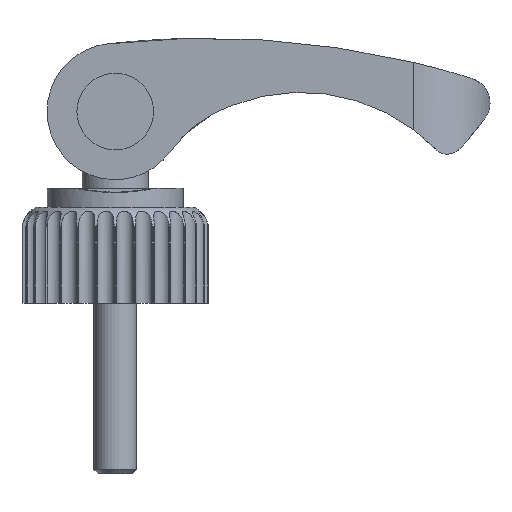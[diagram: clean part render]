
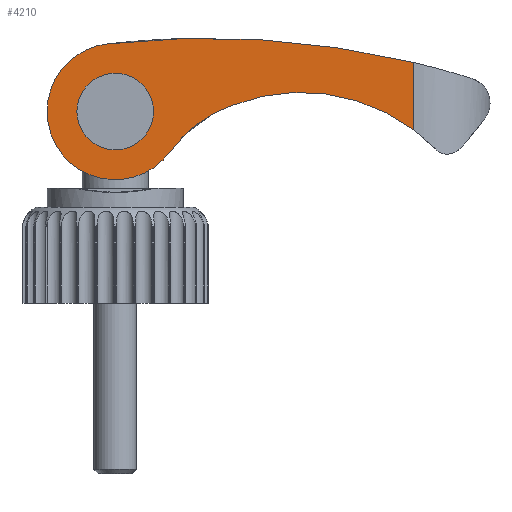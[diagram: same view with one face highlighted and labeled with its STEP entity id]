
A CAD part, front view. The second image highlights one B-rep face of the part: STEP entity #4210.
In plain terms, the highlighted planar face has unit normal (0, -1, 0) as drawn and (0, 0, 1) by its records, which use the part's own axes.
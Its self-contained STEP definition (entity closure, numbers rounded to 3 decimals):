
#65 = CARTESIAN_POINT ( 'NONE',  ( -4.5, 0., 9. ) ) ;
#69 = VERTEX_POINT ( 'NONE', #6981 ) ;
#111 = DIRECTION ( 'NONE',  ( 0., 0., -1. ) ) ;
#219 = CIRCLE ( 'NONE', #3271, 15. ) ;
#257 = ORIENTED_EDGE ( 'NONE', *, *, #2188, .T. ) ;
#324 = EDGE_CURVE ( 'NONE', #7579, #69, #734, .T. ) ;
#590 = VERTEX_POINT ( 'NONE', #3857 ) ;
#632 = CIRCLE ( 'NONE', #4261, 4.5 ) ;
#692 = ORIENTED_EDGE ( 'NONE', *, *, #324, .T. ) ;
#734 = CIRCLE ( 'NONE', #4357, 104. ) ;
#779 = AXIS2_PLACEMENT_3D ( 'NONE', #7450, #5399, #4811 ) ;
#1012 = DIRECTION ( 'NONE',  ( 0., 0., -1. ) ) ;
#1083 = DIRECTION ( 'NONE',  ( 0., 0., 1. ) ) ;
#1261 = AXIS2_PLACEMENT_3D ( 'NONE', #5246, #5889, #3117 ) ;
#1266 = PLANE ( 'NONE',  #1666 ) ;
#1291 = EDGE_CURVE ( 'NONE', #590, #1777, #7840, .T. ) ;
#1572 = EDGE_CURVE ( 'NONE', #69, #4822, #3207, .T. ) ;
#1666 = AXIS2_PLACEMENT_3D ( 'NONE', #2033, #7438, #4075 ) ;
#1777 = VERTEX_POINT ( 'NONE', #8766 ) ;
#1814 = LINE ( 'NONE', #7300, #7331 ) ;
#2033 = CARTESIAN_POINT ( 'NONE',  ( 5.413, -47.694, 9. ) ) ;
#2188 = EDGE_CURVE ( 'NONE', #4822, #7268, #8315, .T. ) ;
#2492 = DIRECTION ( 'NONE',  ( 1., 0., 0. ) ) ;
#2678 = ORIENTED_EDGE ( 'NONE', *, *, #8003, .T. ) ;
#2747 = CARTESIAN_POINT ( 'NONE',  ( 0., 0., 9. ) ) ;
#2891 = ORIENTED_EDGE ( 'NONE', *, *, #7706, .F. ) ;
#3117 = DIRECTION ( 'NONE',  ( 1., 0., 0. ) ) ;
#3207 = CIRCLE ( 'NONE', #8285, 8. ) ;
#3271 = AXIS2_PLACEMENT_3D ( 'NONE', #6756, #4345, #4389 ) ;
#3323 = DIRECTION ( 'NONE',  ( 1., 0., 0. ) ) ;
#3400 = FACE_BOUND ( 'NONE', #7528, .T. ) ;
#3455 = ORIENTED_EDGE ( 'NONE', *, *, #1291, .T. ) ;
#3458 = CARTESIAN_POINT ( 'NONE',  ( 6.488, -4.68, 9. ) ) ;
#3688 = EDGE_CURVE ( 'NONE', #6367, #6867, #632, .T. ) ;
#3784 = DIRECTION ( 'NONE',  ( 1., 0., 0. ) ) ;
#3857 = CARTESIAN_POINT ( 'NONE',  ( 13.462, 0.618, 9. ) ) ;
#3910 = ORIENTED_EDGE ( 'NONE', *, *, #1572, .T. ) ;
#3944 = CARTESIAN_POINT ( 'NONE',  ( 35., 5.764, 9. ) ) ;
#4075 = DIRECTION ( 'NONE',  ( 1., 0., 0. ) ) ;
#4137 = DIRECTION ( 'NONE',  ( 1., 0., 0. ) ) ;
#4210 = ADVANCED_FACE ( 'NONE', ( #3400, #8793 ), #1266, .T. ) ;
#4261 = AXIS2_PLACEMENT_3D ( 'NONE', #8674, #1012, #3784 ) ;
#4317 = DIRECTION ( 'NONE',  ( 0., 0., 1. ) ) ;
#4345 = DIRECTION ( 'NONE',  ( 0., 0., 1. ) ) ;
#4357 = AXIS2_PLACEMENT_3D ( 'NONE', #6992, #4317, #4137 ) ;
#4389 = DIRECTION ( 'NONE',  ( 1., 0., 0. ) ) ;
#4668 = CARTESIAN_POINT ( 'NONE',  ( 35., -2.139, 9. ) ) ;
#4811 = DIRECTION ( 'NONE',  ( 1., 0., 0. ) ) ;
#4822 = VERTEX_POINT ( 'NONE', #8239 ) ;
#5237 = ORIENTED_EDGE ( 'NONE', *, *, #8949, .F. ) ;
#5246 = CARTESIAN_POINT ( 'NONE',  ( 21.805, -19.743, 9. ) ) ;
#5399 = DIRECTION ( 'NONE',  ( 0., 0., 1. ) ) ;
#5453 = AXIS2_PLACEMENT_3D ( 'NONE', #2747, #111, #7057 ) ;
#5532 = AXIS2_PLACEMENT_3D ( 'NONE', #7541, #8806, #3323 ) ;
#5844 = ORIENTED_EDGE ( 'NONE', *, *, #3688, .T. ) ;
#5861 = VERTEX_POINT ( 'NONE', #4668 ) ;
#5889 = DIRECTION ( 'NONE',  ( 0., 0., 1. ) ) ;
#5990 = CARTESIAN_POINT ( 'NONE',  ( 4.5, 0., 9. ) ) ;
#6367 = VERTEX_POINT ( 'NONE', #5990 ) ;
#6504 = ORIENTED_EDGE ( 'NONE', *, *, #7511, .F. ) ;
#6756 = CARTESIAN_POINT ( 'NONE',  ( 18.654, -13.454, 9. ) ) ;
#6867 = VERTEX_POINT ( 'NONE', #65 ) ;
#6981 = CARTESIAN_POINT ( 'NONE',  ( -0.902, 7.949, 9. ) ) ;
#6992 = CARTESIAN_POINT ( 'NONE',  ( 10.827, -95.388, 9. ) ) ;
#7057 = DIRECTION ( 'NONE',  ( 1., 0., 0. ) ) ;
#7268 = VERTEX_POINT ( 'NONE', #3458 ) ;
#7300 = CARTESIAN_POINT ( 'NONE',  ( 35., 11., 9. ) ) ;
#7331 = VECTOR ( 'NONE', #8745, 1000. ) ;
#7438 = DIRECTION ( 'NONE',  ( 0., 0., 1. ) ) ;
#7450 = CARTESIAN_POINT ( 'NONE',  ( 0., 0., 9. ) ) ;
#7511 = EDGE_CURVE ( 'NONE', #7579, #5861, #1814, .T. ) ;
#7528 = EDGE_LOOP ( 'NONE', ( #2678, #5844 ) ) ;
#7541 = CARTESIAN_POINT ( 'NONE',  ( 10., 10., 9. ) ) ;
#7579 = VERTEX_POINT ( 'NONE', #3944 ) ;
#7706 = EDGE_CURVE ( 'NONE', #590, #7268, #219, .T. ) ;
#7840 = CIRCLE ( 'NONE', #5532, 10. ) ;
#7920 = CIRCLE ( 'NONE', #1261, 22. ) ;
#8003 = EDGE_CURVE ( 'NONE', #6867, #6367, #8629, .T. ) ;
#8239 = CARTESIAN_POINT ( 'NONE',  ( -8., 0., 9. ) ) ;
#8285 = AXIS2_PLACEMENT_3D ( 'NONE', #8656, #1083, #2492 ) ;
#8315 = CIRCLE ( 'NONE', #779, 8. ) ;
#8629 = CIRCLE ( 'NONE', #5453, 4.5 ) ;
#8656 = CARTESIAN_POINT ( 'NONE',  ( 0., 0., 9. ) ) ;
#8674 = CARTESIAN_POINT ( 'NONE',  ( 0., 0., 9. ) ) ;
#8745 = DIRECTION ( 'NONE',  ( 0., -1., 0. ) ) ;
#8766 = CARTESIAN_POINT ( 'NONE',  ( 13.689, 0.705, 9. ) ) ;
#8793 = FACE_OUTER_BOUND ( 'NONE', #8969, .T. ) ;
#8806 = DIRECTION ( 'NONE',  ( 0., 0., 1. ) ) ;
#8949 = EDGE_CURVE ( 'NONE', #5861, #1777, #7920, .T. ) ;
#8969 = EDGE_LOOP ( 'NONE', ( #5237, #6504, #692, #3910, #257, #2891, #3455 ) ) ;
